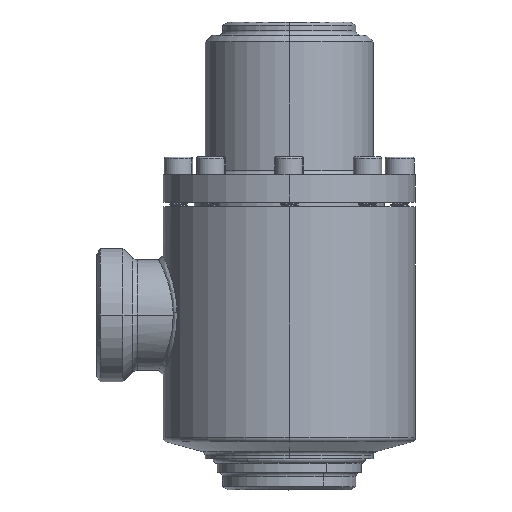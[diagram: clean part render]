
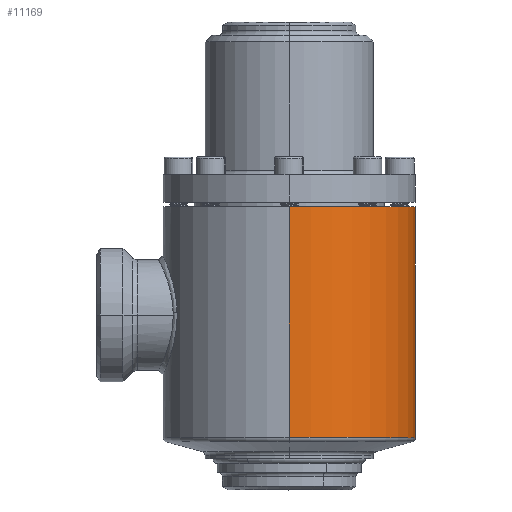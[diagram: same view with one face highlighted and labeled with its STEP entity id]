
A CAD part, top view. The second image highlights one B-rep face of the part: STEP entity #11169.
In plain terms, the highlighted cylindrical face has radius 57 mm (diameter 114 mm), a partial arc.
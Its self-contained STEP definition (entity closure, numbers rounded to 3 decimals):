
#592 = CARTESIAN_POINT ( 'NONE',  ( 0., -23.847, -57. ) ) ;
#17251 = FACE_OUTER_BOUND ( 'NONE', #11042, .T. ) ;
#17252 = CYLINDRICAL_SURFACE ( 'NONE', #17253, 57. ) ;
#17253 = AXIS2_PLACEMENT_3D ( 'NONE', #17254, #17255, #17256 ) ;
#17254 = CARTESIAN_POINT ( 'NONE',  ( 0., 76.795, 0. ) ) ;
#17255 = DIRECTION ( 'NONE',  ( 0., 1., 0. ) ) ;
#17256 = DIRECTION ( 'NONE',  ( 0., 0., 1. ) ) ;
#2957 = LINE ( 'NONE', #2958, #2963 ) ;
#2958 = CARTESIAN_POINT ( 'NONE',  ( 0., 76.795, 57. ) ) ;
#2963 = VECTOR ( 'NONE', #2964, 1000. ) ;
#2964 = DIRECTION ( 'NONE',  ( 0., 1., 0. ) ) ;
#19497 = CARTESIAN_POINT ( 'NONE',  ( 0., -23.847, 57. ) ) ;
#20016 = CIRCLE ( 'NONE', #20035, 57. ) ;
#20035 = AXIS2_PLACEMENT_3D ( 'NONE', #20036, #20037, #20038 ) ;
#20036 = CARTESIAN_POINT ( 'NONE',  ( 0., -23.847, 0. ) ) ;
#20037 = DIRECTION ( 'NONE',  ( 0., 1., 0. ) ) ;
#20038 = DIRECTION ( 'NONE',  ( 0., 0., 1. ) ) ;
#20339 = CARTESIAN_POINT ( 'NONE',  ( 0., 80.527, -57. ) ) ;
#4193 = VERTEX_POINT ( 'NONE', #592 ) ;
#20850 = LINE ( 'NONE', #20851, #20852 ) ;
#20851 = CARTESIAN_POINT ( 'NONE',  ( 0., 76.795, -57. ) ) ;
#20852 = VECTOR ( 'NONE', #20853, 1000. ) ;
#20853 = DIRECTION ( 'NONE',  ( 0., 1., 0. ) ) ;
#5000 = EDGE_CURVE ( 'NONE', #12416, #5876, #2957, .T. ) ;
#5368 = ORIENTED_EDGE ( 'NONE', *, *, #5000, .F. ) ;
#5876 = VERTEX_POINT ( 'NONE', #6612 ) ;
#6098 = EDGE_CURVE ( 'NONE', #5876, #6977, #11937, .T. ) ;
#6467 = ORIENTED_EDGE ( 'NONE', *, *, #6098, .F. ) ;
#6612 = CARTESIAN_POINT ( 'NONE',  ( 0., 80.527, 57. ) ) ;
#6977 = VERTEX_POINT ( 'NONE', #20339 ) ;
#7191 = EDGE_CURVE ( 'NONE', #4193, #6977, #20850, .T. ) ;
#7560 = ORIENTED_EDGE ( 'NONE', *, *, #7191, .T. ) ;
#8085 = ORIENTED_EDGE ( 'NONE', *, *, #12632, .T. ) ;
#11042 = EDGE_LOOP ( 'NONE', ( #8085, #7560, #6467, #5368 ) ) ;
#11169 = ADVANCED_FACE ( 'NONE', ( #17251 ), #17252, .T. ) ;
#11937 = CIRCLE ( 'NONE', #11938, 57. ) ;
#11938 = AXIS2_PLACEMENT_3D ( 'NONE', #11939, #11940, #11941 ) ;
#11939 = CARTESIAN_POINT ( 'NONE',  ( 0., 80.527, 0. ) ) ;
#11940 = DIRECTION ( 'NONE',  ( 0., 1., 0. ) ) ;
#11941 = DIRECTION ( 'NONE',  ( 0., 0., 1. ) ) ;
#12416 = VERTEX_POINT ( 'NONE', #19497 ) ;
#12632 = EDGE_CURVE ( 'NONE', #12416, #4193, #20016, .T. ) ;
